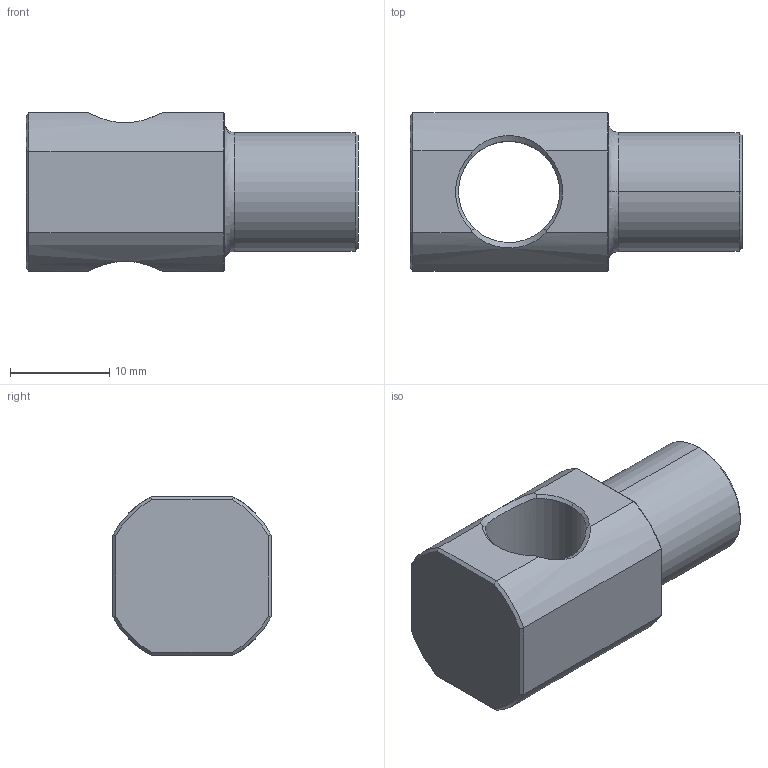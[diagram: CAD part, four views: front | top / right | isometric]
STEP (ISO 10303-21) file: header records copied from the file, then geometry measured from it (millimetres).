
FILE_DESCRIPTION (( 'STEP AP214' ), '1' );
FILE_NAME ('SMBR2-M12.STEP', '2019-11-07T01:49:34', ( '微软用户' ), ( '微软中国' ), 'SwSTEP 2.0', 'SolidWorks 2016', '' );
FILE_SCHEMA (( 'AUTOMOTIVE_DESIGN' ));
Length unit declared in the file: millimetre
Products named in the file (1): SMBR2-M12
Bounding box: 33.5 x 16 x 16 mm (x, y, z)
Volume: 4778.8 mm3; surface area: 2459.3 mm2
Topology: 1 solids, 1 shells, 50 faces, 122 edges, 74 vertices
Faces by surface type: plane 18, cone 16, cylinder 10, bspline 6
Entity records: 3302 total; most frequent: CARTESIAN_POINT 2172, ORIENTED_EDGE 244, DIRECTION 208, EDGE_CURVE 122, AXIS2_PLACEMENT_3D 85, VERTEX_POINT 74, EDGE_LOOP 52, ADVANCED_FACE 50
